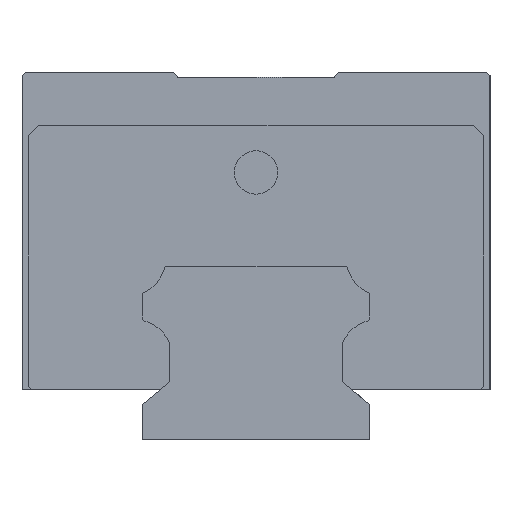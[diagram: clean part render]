
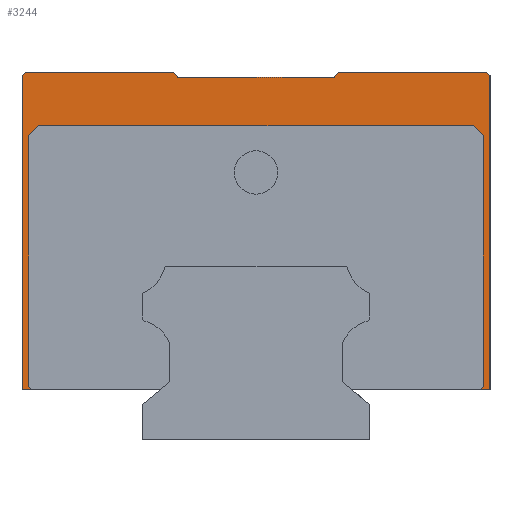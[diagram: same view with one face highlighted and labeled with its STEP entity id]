
A CAD part, left-side view. The second image highlights one B-rep face of the part: STEP entity #3244.
In plain terms, the highlighted planar face has unit normal (-1, 0, 0).
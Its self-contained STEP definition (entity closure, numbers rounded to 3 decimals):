
#134 = VECTOR ( 'NONE', #4770, 1000. ) ;
#155 = DIRECTION ( 'NONE',  ( 0., 0., -1. ) ) ;
#231 = EDGE_CURVE ( 'NONE', #991, #560, #3536, .T. ) ;
#243 = CARTESIAN_POINT ( 'NONE',  ( -61.5, -12.296, 55. ) ) ;
#257 = EDGE_LOOP ( 'NONE', ( #1308, #3222, #5231, #2455, #2523, #2045, #3470, #2193, #5336, #273, #3020, #3679, #3235, #2733, #2768, #4965, #782, #4582 ) ) ;
#273 = ORIENTED_EDGE ( 'NONE', *, *, #2871, .T. ) ;
#402 = LINE ( 'NONE', #4381, #2754 ) ;
#474 = VERTEX_POINT ( 'NONE', #3968 ) ;
#482 = VERTEX_POINT ( 'NONE', #3605 ) ;
#496 = DIRECTION ( 'NONE',  ( 0., 0.707, -0.707 ) ) ;
#522 = VERTEX_POINT ( 'NONE', #1050 ) ;
#546 = VECTOR ( 'NONE', #496, 1000. ) ;
#560 = VERTEX_POINT ( 'NONE', #2734 ) ;
#582 = DIRECTION ( 'NONE',  ( 0., -1., 0. ) ) ;
#600 = LINE ( 'NONE', #2735, #2498 ) ;
#624 = DIRECTION ( 'NONE',  ( 0., 0.707, 0.707 ) ) ;
#694 = VERTEX_POINT ( 'NONE', #4105 ) ;
#782 = ORIENTED_EDGE ( 'NONE', *, *, #4979, .F. ) ;
#850 = CARTESIAN_POINT ( 'NONE',  ( -61.5, 34.5, 55. ) ) ;
#879 = LINE ( 'NONE', #850, #546 ) ;
#916 = CARTESIAN_POINT ( 'NONE',  ( -61.5, -33.998, 8. ) ) ;
#938 = DIRECTION ( 'NONE',  ( 1., 0., 0. ) ) ;
#963 = CARTESIAN_POINT ( 'NONE',  ( -61.5, 34.002, 8. ) ) ;
#974 = LINE ( 'NONE', #4004, #2924 ) ;
#991 = VERTEX_POINT ( 'NONE', #3552 ) ;
#996 = CARTESIAN_POINT ( 'NONE',  ( -61.5, 34.002, 45.5 ) ) ;
#1050 = CARTESIAN_POINT ( 'NONE',  ( -61.5, -35., 54.5 ) ) ;
#1082 = VECTOR ( 'NONE', #3607, 1000. ) ;
#1083 = CARTESIAN_POINT ( 'NONE',  ( -61.5, 35., 55. ) ) ;
#1152 = VECTOR ( 'NONE', #4230, 1000. ) ;
#1211 = CARTESIAN_POINT ( 'NONE',  ( -61.5, 34.5, 55. ) ) ;
#1267 = FACE_OUTER_BOUND ( 'NONE', #257, .T. ) ;
#1308 = ORIENTED_EDGE ( 'NONE', *, *, #4767, .F. ) ;
#1310 = CARTESIAN_POINT ( 'NONE',  ( -61.5, 35., 7.5 ) ) ;
#1395 = CARTESIAN_POINT ( 'NONE',  ( -61.5, 35., 55. ) ) ;
#1418 = EDGE_CURVE ( 'NONE', #3249, #4288, #1976, .T. ) ;
#1458 = CARTESIAN_POINT ( 'NONE',  ( -61.5, 11.667, 54.25 ) ) ;
#1462 = LINE ( 'NONE', #3152, #3980 ) ;
#1485 = LINE ( 'NONE', #1083, #5385 ) ;
#1529 = VERTEX_POINT ( 'NONE', #1211 ) ;
#1574 = CARTESIAN_POINT ( 'NONE',  ( -61.5, 14.65, 7.5 ) ) ;
#1580 = VERTEX_POINT ( 'NONE', #3839 ) ;
#1661 = EDGE_CURVE ( 'NONE', #2206, #2954, #4704, .T. ) ;
#1754 = VECTOR ( 'NONE', #4855, 1000. ) ;
#1830 = CARTESIAN_POINT ( 'NONE',  ( -61.5, 34.002, 8. ) ) ;
#1852 = CARTESIAN_POINT ( 'NONE',  ( -61.5, -33.998, 45.5 ) ) ;
#1871 = CARTESIAN_POINT ( 'NONE',  ( -61.5, -33.998, 8. ) ) ;
#1903 = CARTESIAN_POINT ( 'NONE',  ( -61.5, -32.498, 47. ) ) ;
#1976 = LINE ( 'NONE', #1574, #2860 ) ;
#2001 = CARTESIAN_POINT ( 'NONE',  ( -61.5, -11.667, 54.25 ) ) ;
#2045 = ORIENTED_EDGE ( 'NONE', *, *, #3026, .T. ) ;
#2053 = CARTESIAN_POINT ( 'NONE',  ( -61.5, 32.502, 47. ) ) ;
#2067 = EDGE_CURVE ( 'NONE', #4234, #474, #5179, .T. ) ;
#2133 = PLANE ( 'NONE',  #4350 ) ;
#2193 = ORIENTED_EDGE ( 'NONE', *, *, #231, .T. ) ;
#2200 = EDGE_CURVE ( 'NONE', #4168, #3384, #3962, .T. ) ;
#2206 = VERTEX_POINT ( 'NONE', #1903 ) ;
#2312 = DIRECTION ( 'NONE',  ( 0., 0.707, 0.707 ) ) ;
#2318 = VERTEX_POINT ( 'NONE', #4568 ) ;
#2455 = ORIENTED_EDGE ( 'NONE', *, *, #3431, .T. ) ;
#2489 = VECTOR ( 'NONE', #4944, 1000. ) ;
#2498 = VECTOR ( 'NONE', #624, 1000. ) ;
#2523 = ORIENTED_EDGE ( 'NONE', *, *, #2067, .F. ) ;
#2549 = DIRECTION ( 'NONE',  ( 0., 1., 0. ) ) ;
#2733 = ORIENTED_EDGE ( 'NONE', *, *, #3379, .F. ) ;
#2734 = CARTESIAN_POINT ( 'NONE',  ( -61.5, 12.296, 55. ) ) ;
#2735 = CARTESIAN_POINT ( 'NONE',  ( -61.5, -35., 54.5 ) ) ;
#2737 = DIRECTION ( 'NONE',  ( 0., 0.643, -0.766 ) ) ;
#2754 = VECTOR ( 'NONE', #4765, 1000. ) ;
#2768 = ORIENTED_EDGE ( 'NONE', *, *, #5187, .F. ) ;
#2852 = DIRECTION ( 'NONE',  ( 0., 1., 0. ) ) ;
#2860 = VECTOR ( 'NONE', #2852, 1000. ) ;
#2871 = EDGE_CURVE ( 'NONE', #1529, #482, #879, .T. ) ;
#2900 = DIRECTION ( 'NONE',  ( 0., 0.707, -0.707 ) ) ;
#2924 = VECTOR ( 'NONE', #4377, 1000. ) ;
#2954 = VERTEX_POINT ( 'NONE', #3509 ) ;
#3020 = ORIENTED_EDGE ( 'NONE', *, *, #4995, .F. ) ;
#3026 = EDGE_CURVE ( 'NONE', #4234, #5085, #1462, .T. ) ;
#3152 = CARTESIAN_POINT ( 'NONE',  ( -61.5, -12.296, 55. ) ) ;
#3222 = ORIENTED_EDGE ( 'NONE', *, *, #4529, .F. ) ;
#3235 = ORIENTED_EDGE ( 'NONE', *, *, #3324, .F. ) ;
#3244 = ADVANCED_FACE ( 'NONE', ( #1267 ), #2133, .F. ) ;
#3249 = VERTEX_POINT ( 'NONE', #4697 ) ;
#3324 = EDGE_CURVE ( 'NONE', #3330, #3249, #3557, .T. ) ;
#3330 = VERTEX_POINT ( 'NONE', #963 ) ;
#3348 = CARTESIAN_POINT ( 'NONE',  ( -61.5, -33.498, 7.5 ) ) ;
#3379 = EDGE_CURVE ( 'NONE', #694, #3330, #4776, .T. ) ;
#3384 = VERTEX_POINT ( 'NONE', #1852 ) ;
#3410 = LINE ( 'NONE', #3348, #1152 ) ;
#3431 = EDGE_CURVE ( 'NONE', #522, #474, #600, .T. ) ;
#3470 = ORIENTED_EDGE ( 'NONE', *, *, #3633, .T. ) ;
#3484 = CARTESIAN_POINT ( 'NONE',  ( -61.5, -32.628, 47. ) ) ;
#3509 = CARTESIAN_POINT ( 'NONE',  ( -61.5, 32.502, 47. ) ) ;
#3513 = LINE ( 'NONE', #3978, #4861 ) ;
#3536 = LINE ( 'NONE', #1458, #1754 ) ;
#3552 = CARTESIAN_POINT ( 'NONE',  ( -61.5, 11.667, 54.25 ) ) ;
#3557 = LINE ( 'NONE', #1830, #1082 ) ;
#3575 = DIRECTION ( 'NONE',  ( 0., 0., 1. ) ) ;
#3605 = CARTESIAN_POINT ( 'NONE',  ( -61.5, 35., 54.5 ) ) ;
#3607 = DIRECTION ( 'NONE',  ( 0., -0.707, -0.707 ) ) ;
#3633 = EDGE_CURVE ( 'NONE', #5085, #991, #402, .T. ) ;
#3679 = ORIENTED_EDGE ( 'NONE', *, *, #1418, .F. ) ;
#3746 = LINE ( 'NONE', #2053, #4161 ) ;
#3839 = CARTESIAN_POINT ( 'NONE',  ( -61.5, -35., 7.5 ) ) ;
#3863 = VECTOR ( 'NONE', #5164, 1000. ) ;
#3934 = LINE ( 'NONE', #4384, #4057 ) ;
#3960 = DIRECTION ( 'NONE',  ( 0., 1., 0. ) ) ;
#3962 = LINE ( 'NONE', #1871, #5359 ) ;
#3968 = CARTESIAN_POINT ( 'NONE',  ( -61.5, -34.5, 55. ) ) ;
#3978 = CARTESIAN_POINT ( 'NONE',  ( -61.5, -33.998, 45.5 ) ) ;
#3980 = VECTOR ( 'NONE', #2737, 1000. ) ;
#4004 = CARTESIAN_POINT ( 'NONE',  ( -61.5, -35., 55. ) ) ;
#4057 = VECTOR ( 'NONE', #3960, 1000. ) ;
#4105 = CARTESIAN_POINT ( 'NONE',  ( -61.5, 34.002, 45.5 ) ) ;
#4116 = LINE ( 'NONE', #4508, #2489 ) ;
#4161 = VECTOR ( 'NONE', #2900, 1000. ) ;
#4168 = VERTEX_POINT ( 'NONE', #916 ) ;
#4214 = EDGE_CURVE ( 'NONE', #1529, #560, #1485, .T. ) ;
#4230 = DIRECTION ( 'NONE',  ( 0., -0.707, 0.707 ) ) ;
#4234 = VERTEX_POINT ( 'NONE', #243 ) ;
#4288 = VERTEX_POINT ( 'NONE', #1310 ) ;
#4350 = AXIS2_PLACEMENT_3D ( 'NONE', #5102, #938, #2549 ) ;
#4377 = DIRECTION ( 'NONE',  ( 0., 0., -1. ) ) ;
#4381 = CARTESIAN_POINT ( 'NONE',  ( -61.5, -11.667, 54.25 ) ) ;
#4384 = CARTESIAN_POINT ( 'NONE',  ( -61.5, -35., 7.5 ) ) ;
#4508 = CARTESIAN_POINT ( 'NONE',  ( -61.5, 35., 7.5 ) ) ;
#4529 = EDGE_CURVE ( 'NONE', #1580, #2318, #3934, .T. ) ;
#4568 = CARTESIAN_POINT ( 'NONE',  ( -61.5, -33.498, 7.5 ) ) ;
#4582 = ORIENTED_EDGE ( 'NONE', *, *, #2200, .F. ) ;
#4609 = VECTOR ( 'NONE', #155, 1000. ) ;
#4697 = CARTESIAN_POINT ( 'NONE',  ( -61.5, 33.502, 7.5 ) ) ;
#4704 = LINE ( 'NONE', #3484, #3863 ) ;
#4765 = DIRECTION ( 'NONE',  ( 0., 1., 0. ) ) ;
#4767 = EDGE_CURVE ( 'NONE', #2318, #4168, #3410, .T. ) ;
#4770 = DIRECTION ( 'NONE',  ( 0., -1., 0. ) ) ;
#4776 = LINE ( 'NONE', #996, #4609 ) ;
#4855 = DIRECTION ( 'NONE',  ( 0., 0.643, 0.766 ) ) ;
#4861 = VECTOR ( 'NONE', #2312, 1000. ) ;
#4890 = EDGE_CURVE ( 'NONE', #522, #1580, #974, .T. ) ;
#4944 = DIRECTION ( 'NONE',  ( 0., 0., 1. ) ) ;
#4965 = ORIENTED_EDGE ( 'NONE', *, *, #1661, .F. ) ;
#4979 = EDGE_CURVE ( 'NONE', #3384, #2206, #3513, .T. ) ;
#4995 = EDGE_CURVE ( 'NONE', #4288, #482, #4116, .T. ) ;
#5085 = VERTEX_POINT ( 'NONE', #2001 ) ;
#5102 = CARTESIAN_POINT ( 'NONE',  ( -61.5, -35., 55. ) ) ;
#5164 = DIRECTION ( 'NONE',  ( 0., 1., 0. ) ) ;
#5179 = LINE ( 'NONE', #1395, #134 ) ;
#5187 = EDGE_CURVE ( 'NONE', #2954, #694, #3746, .T. ) ;
#5231 = ORIENTED_EDGE ( 'NONE', *, *, #4890, .F. ) ;
#5336 = ORIENTED_EDGE ( 'NONE', *, *, #4214, .F. ) ;
#5359 = VECTOR ( 'NONE', #3575, 1000. ) ;
#5385 = VECTOR ( 'NONE', #582, 1000. ) ;
